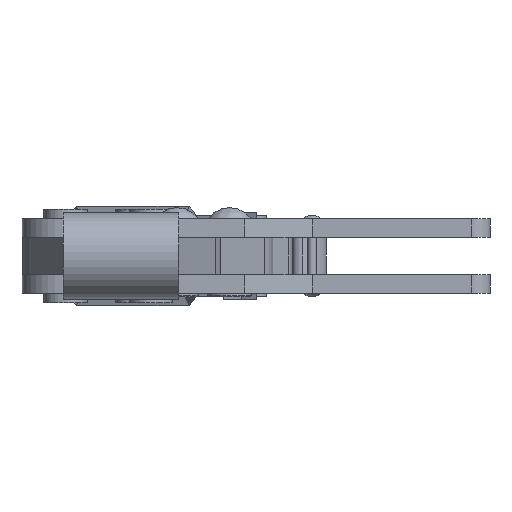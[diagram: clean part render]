
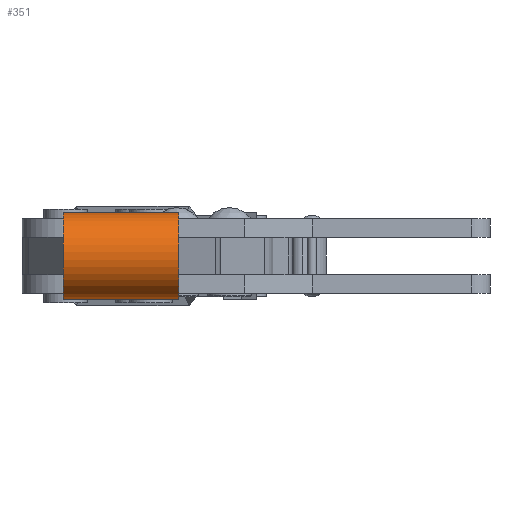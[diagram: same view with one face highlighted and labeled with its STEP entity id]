
A CAD part, left-side view. The second image highlights one B-rep face of the part: STEP entity #351.
In plain terms, the highlighted cylindrical face has radius 6.96 mm (diameter 13.92 mm), a partial arc.
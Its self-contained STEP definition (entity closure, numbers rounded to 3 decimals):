
#351 = ADVANCED_FACE( '', ( #665 ), #666, .T. );
#665 = FACE_OUTER_BOUND( '', #1294, .T. );
#666 = CYLINDRICAL_SURFACE( '', #1295, 6.96 );
#1294 = EDGE_LOOP( '', ( #2208, #2209, #2210, #2211 ) );
#1295 = AXIS2_PLACEMENT_3D( '', #2212, #2213, #2214 );
#2208 = ORIENTED_EDGE( '', *, *, #3487, .T. );
#2209 = ORIENTED_EDGE( '', *, *, #3488, .F. );
#2210 = ORIENTED_EDGE( '', *, *, #3489, .F. );
#2211 = ORIENTED_EDGE( '', *, *, #3490, .T. );
#2212 = CARTESIAN_POINT( '', ( -75.5, 18.3, 0. ) );
#2213 = DIRECTION( '', ( 0., 1., 0. ) );
#2214 = DIRECTION( '', ( 0., 0., -1. ) );
#3487 = EDGE_CURVE( '', #4129, #4130, #4131, .T. );
#3488 = EDGE_CURVE( '', #4132, #4130, #4133, .T. );
#3489 = EDGE_CURVE( '', #4134, #4132, #4135, .T. );
#3490 = EDGE_CURVE( '', #4134, #4129, #4136, .T. );
#4129 = VERTEX_POINT( '', #5111 );
#4130 = VERTEX_POINT( '', #5112 );
#4131 = CIRCLE( '', #5113, 6.96 );
#4132 = VERTEX_POINT( '', #5114 );
#4133 = LINE( '', #5115, #5116 );
#4134 = VERTEX_POINT( '', #5117 );
#4135 = CIRCLE( '', #5118, 6.96 );
#4136 = LINE( '', #5119, #5120 );
#5111 = CARTESIAN_POINT( '', ( -71.879, -0.3, -5.944 ) );
#5112 = CARTESIAN_POINT( '', ( -71.879, -0.3, 5.944 ) );
#5113 = AXIS2_PLACEMENT_3D( '', #6360, #6361, #6362 );
#5114 = CARTESIAN_POINT( '', ( -71.879, 18.3, 5.944 ) );
#5115 = CARTESIAN_POINT( '', ( -71.879, 18.3, 5.944 ) );
#5116 = VECTOR( '', #6363, 1000. );
#5117 = CARTESIAN_POINT( '', ( -71.879, 18.3, -5.944 ) );
#5118 = AXIS2_PLACEMENT_3D( '', #6364, #6365, #6366 );
#5119 = CARTESIAN_POINT( '', ( -71.879, 18.3, -5.944 ) );
#5120 = VECTOR( '', #6367, 1000. );
#6360 = CARTESIAN_POINT( '', ( -75.5, -0.3, 0. ) );
#6361 = DIRECTION( '', ( 0., 1., 0. ) );
#6362 = DIRECTION( '', ( 1., 0., 0. ) );
#6363 = DIRECTION( '', ( 0., -1., 0. ) );
#6364 = CARTESIAN_POINT( '', ( -75.5, 18.3, 0. ) );
#6365 = DIRECTION( '', ( 0., 1., 0. ) );
#6366 = DIRECTION( '', ( 1., 0., 0. ) );
#6367 = DIRECTION( '', ( 0., -1., 0. ) );
